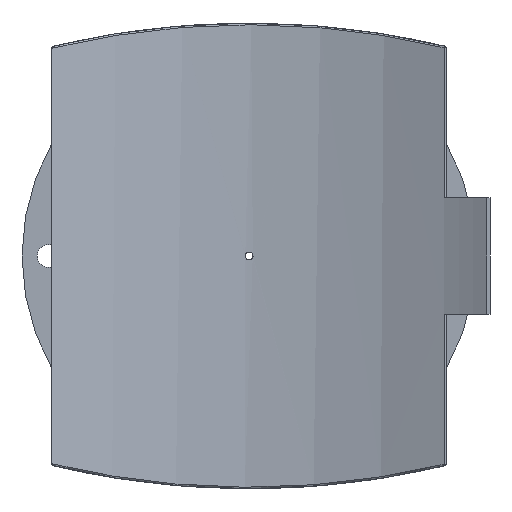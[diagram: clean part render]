
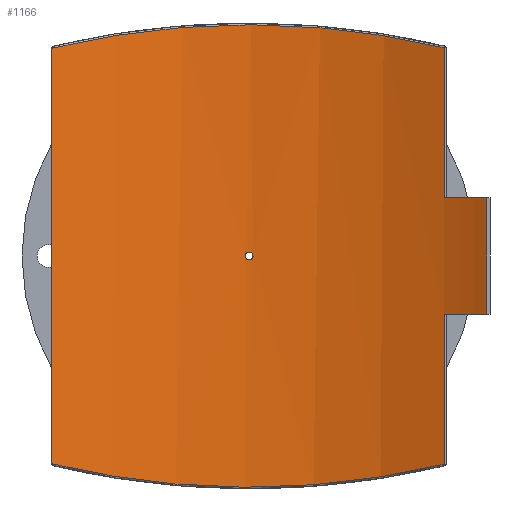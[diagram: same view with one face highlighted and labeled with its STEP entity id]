
A CAD part, front view. The second image highlights one B-rep face of the part: STEP entity #1166.
In plain terms, the highlighted cylindrical face has radius 600 mm (diameter 1200 mm), a partial arc.
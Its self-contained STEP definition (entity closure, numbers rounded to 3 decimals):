
#55=FACE_BOUND('',#379,.T.);
#117=B_SPLINE_CURVE_WITH_KNOTS('',3,(#2361,#2362,#2363,#2364,#2365,#2366,
#2367,#2368,#2369,#2370),.UNSPECIFIED.,.F.,.F.,(4,1,1,1,1,1,1,4),(-60.562,
-52.889,-45.215,-37.542,-29.868,
-22.195,-14.521,-6.848),.UNSPECIFIED.);
#118=B_SPLINE_CURVE_WITH_KNOTS('',3,(#2379,#2380,#2381,#2382,#2383,#2384,
#2385,#2386,#2387,#2388),.UNSPECIFIED.,.F.,.F.,(4,1,1,1,1,1,1,4),(-55.334,
-47.66,-39.987,-32.313,-24.64,
-16.966,-9.293,-1.619),.UNSPECIFIED.);
#119=B_SPLINE_CURVE_WITH_KNOTS('',3,(#2391,#2392,#2393,#2394,#2395,#2396,
#2397,#2398,#2399,#2400),.UNSPECIFIED.,.F.,.F.,(4,2,2,2,4),(0.,0.196,
0.392,0.588,0.784),.UNSPECIFIED.);
#120=B_SPLINE_CURVE_WITH_KNOTS('',3,(#2401,#2402,#2403,#2404,#2405,#2406,
#2407,#2408,#2409,#2410,#2411,#2412,#2413,#2414,#2415,#2416,#2417,#2418,
#2419,#2420,#2421,#2422,#2423,#2424,#2425,#2426),.UNSPECIFIED.,.F.,.F.,
(4,2,2,2,2,2,2,2,2,2,2,2,4),(0.784,0.979,1.175,
1.371,1.567,1.763,1.959,2.155,
2.351,2.546,2.742,2.938,3.134),
 .UNSPECIFIED.);
#141=LINE('',#1747,#196);
#152=LINE('',#2050,#207);
#159=LINE('',#2375,#214);
#160=LINE('',#2378,#215);
#196=VECTOR('',#1396,10.);
#207=VECTOR('',#1435,10.);
#214=VECTOR('',#1472,10.);
#215=VECTOR('',#1475,10.);
#260=CYLINDRICAL_SURFACE('',#1267,600.);
#308=FACE_OUTER_BOUND('',#378,.T.);
#378=EDGE_LOOP('',(#903,#904,#905,#906,#907,#908,#909,#910));
#379=EDGE_LOOP('',(#911,#912));
#485=CIRCLE('',#1268,600.);
#486=CIRCLE('',#1269,600.);
#554=VERTEX_POINT('',#1738);
#557=VERTEX_POINT('',#1745);
#577=VERTEX_POINT('',#2043);
#580=VERTEX_POINT('',#2048);
#593=VERTEX_POINT('',#2347);
#594=VERTEX_POINT('',#2372);
#595=VERTEX_POINT('',#2374);
#596=VERTEX_POINT('',#2377);
#597=VERTEX_POINT('',#2389);
#598=VERTEX_POINT('',#2390);
#665=EDGE_CURVE('',#557,#554,#141,.T.);
#695=EDGE_CURVE('',#580,#577,#152,.T.);
#718=EDGE_CURVE('',#593,#580,#117,.T.);
#719=EDGE_CURVE('',#594,#557,#485,.T.);
#720=EDGE_CURVE('',#594,#595,#159,.T.);
#721=EDGE_CURVE('',#577,#595,#486,.T.);
#722=EDGE_CURVE('',#596,#593,#160,.T.);
#723=EDGE_CURVE('',#554,#596,#118,.T.);
#724=EDGE_CURVE('',#597,#598,#119,.T.);
#725=EDGE_CURVE('',#598,#597,#120,.T.);
#903=ORIENTED_EDGE('',*,*,#719,.F.);
#904=ORIENTED_EDGE('',*,*,#720,.T.);
#905=ORIENTED_EDGE('',*,*,#721,.F.);
#906=ORIENTED_EDGE('',*,*,#695,.F.);
#907=ORIENTED_EDGE('',*,*,#718,.F.);
#908=ORIENTED_EDGE('',*,*,#722,.F.);
#909=ORIENTED_EDGE('',*,*,#723,.F.);
#910=ORIENTED_EDGE('',*,*,#665,.F.);
#911=ORIENTED_EDGE('',*,*,#724,.T.);
#912=ORIENTED_EDGE('',*,*,#725,.T.);
#1166=ADVANCED_FACE('',(#308,#55),#260,.F.);
#1267=AXIS2_PLACEMENT_3D('',#2371,#1468,#1469);
#1268=AXIS2_PLACEMENT_3D('',#2373,#1470,#1471);
#1269=AXIS2_PLACEMENT_3D('',#2376,#1473,#1474);
#1396=DIRECTION('',(0.,0.,-1.));
#1435=DIRECTION('',(0.,0.,-1.));
#1468=DIRECTION('center_axis',(0.,0.,1.));
#1469=DIRECTION('ref_axis',(-1.,0.,0.));
#1470=DIRECTION('center_axis',(0.,0.,1.));
#1471=DIRECTION('ref_axis',(-0.519,-0.855,0.));
#1472=DIRECTION('',(0.,0.,1.));
#1473=DIRECTION('center_axis',(0.,0.,-1.));
#1474=DIRECTION('ref_axis',(-0.519,-0.855,0.));
#1475=DIRECTION('',(0.,0.,1.));
#1738=CARTESIAN_POINT('',(255.449,542.905,-272.921));
#1745=CARTESIAN_POINT('',(255.449,542.905,-76.25));
#1747=CARTESIAN_POINT('',(255.449,542.905,0.));
#2043=CARTESIAN_POINT('',(255.449,542.905,76.25));
#2048=CARTESIAN_POINT('',(255.449,542.905,272.921));
#2050=CARTESIAN_POINT('',(255.449,542.905,0.));
#2347=CARTESIAN_POINT('',(-258.3,541.554,272.236));
#2361=CARTESIAN_POINT('Ctrl Pts',(-258.3,541.554,272.236));
#2362=CARTESIAN_POINT('Ctrl Pts',(-235.817,552.278,277.668));
#2363=CARTESIAN_POINT('Ctrl Pts',(-189.28,571.032,287.406));
#2364=CARTESIAN_POINT('Ctrl Pts',(-115.814,590.36,297.748));
#2365=CARTESIAN_POINT('Ctrl Pts',(-39.954,600.3,303.163));
#2366=CARTESIAN_POINT('Ctrl Pts',(36.721,600.506,303.276));
#2367=CARTESIAN_POINT('Ctrl Pts',(112.643,590.975,298.082));
#2368=CARTESIAN_POINT('Ctrl Pts',(186.244,572.03,287.934));
#2369=CARTESIAN_POINT('Ctrl Pts',(232.897,553.516,278.306));
#2370=CARTESIAN_POINT('Ctrl Pts',(255.449,542.905,272.921));
#2371=CARTESIAN_POINT('Origin',(0.,0.,0.));
#2372=CARTESIAN_POINT('',(311.529,512.786,-76.25));
#2373=CARTESIAN_POINT('Origin',(0.,0.,
-76.25));
#2374=CARTESIAN_POINT('',(311.529,512.786,76.25));
#2375=CARTESIAN_POINT('',(311.529,512.786,0.));
#2376=CARTESIAN_POINT('Origin',(0.,0.,
76.25));
#2377=CARTESIAN_POINT('',(-258.3,541.554,-272.236));
#2378=CARTESIAN_POINT('',(-258.3,541.554,0.));
#2379=CARTESIAN_POINT('Ctrl Pts',(255.449,542.905,-272.921));
#2380=CARTESIAN_POINT('Ctrl Pts',(232.897,553.516,-278.306));
#2381=CARTESIAN_POINT('Ctrl Pts',(186.244,572.031,-287.934));
#2382=CARTESIAN_POINT('Ctrl Pts',(112.643,590.974,-298.081));
#2383=CARTESIAN_POINT('Ctrl Pts',(36.721,600.507,-303.276));
#2384=CARTESIAN_POINT('Ctrl Pts',(-39.954,600.3,-303.163));
#2385=CARTESIAN_POINT('Ctrl Pts',(-115.814,590.36,-297.749));
#2386=CARTESIAN_POINT('Ctrl Pts',(-189.279,571.032,-287.405));
#2387=CARTESIAN_POINT('Ctrl Pts',(-235.817,552.278,-277.668));
#2388=CARTESIAN_POINT('Ctrl Pts',(-258.3,541.554,-272.236));
#2389=CARTESIAN_POINT('',(5.2,599.977,0.));
#2390=CARTESIAN_POINT('',(0.,600.,-5.2));
#2391=CARTESIAN_POINT('Ctrl Pts',(5.2,599.977,0.));
#2392=CARTESIAN_POINT('Ctrl Pts',(5.2,599.977,-0.653));
#2393=CARTESIAN_POINT('Ctrl Pts',(5.07,599.979,-1.349));
#2394=CARTESIAN_POINT('Ctrl Pts',(4.539,599.983,-2.631));
#2395=CARTESIAN_POINT('Ctrl Pts',(4.139,599.986,-3.215));
#2396=CARTESIAN_POINT('Ctrl Pts',(3.215,599.992,-4.139));
#2397=CARTESIAN_POINT('Ctrl Pts',(2.631,599.995,-4.539));
#2398=CARTESIAN_POINT('Ctrl Pts',(1.349,599.999,-5.07));
#2399=CARTESIAN_POINT('Ctrl Pts',(0.653,600.,-5.2));
#2400=CARTESIAN_POINT('Ctrl Pts',(0.,600.,-5.2));
#2401=CARTESIAN_POINT('Ctrl Pts',(0.,600.,-5.2));
#2402=CARTESIAN_POINT('Ctrl Pts',(-0.653,600.,-5.2));
#2403=CARTESIAN_POINT('Ctrl Pts',(-1.349,599.999,-5.07));
#2404=CARTESIAN_POINT('Ctrl Pts',(-2.631,599.995,-4.539));
#2405=CARTESIAN_POINT('Ctrl Pts',(-3.215,599.992,-4.139));
#2406=CARTESIAN_POINT('Ctrl Pts',(-4.139,599.986,-3.215));
#2407=CARTESIAN_POINT('Ctrl Pts',(-4.539,599.983,-2.631));
#2408=CARTESIAN_POINT('Ctrl Pts',(-5.07,599.979,-1.349));
#2409=CARTESIAN_POINT('Ctrl Pts',(-5.2,599.977,-0.653));
#2410=CARTESIAN_POINT('Ctrl Pts',(-5.2,599.977,0.653));
#2411=CARTESIAN_POINT('Ctrl Pts',(-5.07,599.979,1.349));
#2412=CARTESIAN_POINT('Ctrl Pts',(-4.539,599.983,2.631));
#2413=CARTESIAN_POINT('Ctrl Pts',(-4.139,599.986,3.215));
#2414=CARTESIAN_POINT('Ctrl Pts',(-3.215,599.992,4.139));
#2415=CARTESIAN_POINT('Ctrl Pts',(-2.631,599.995,4.539));
#2416=CARTESIAN_POINT('Ctrl Pts',(-1.349,599.999,5.07));
#2417=CARTESIAN_POINT('Ctrl Pts',(-0.653,600.,5.2));
#2418=CARTESIAN_POINT('Ctrl Pts',(0.653,600.,5.2));
#2419=CARTESIAN_POINT('Ctrl Pts',(1.349,599.999,5.07));
#2420=CARTESIAN_POINT('Ctrl Pts',(2.631,599.995,4.539));
#2421=CARTESIAN_POINT('Ctrl Pts',(3.215,599.992,4.139));
#2422=CARTESIAN_POINT('Ctrl Pts',(4.139,599.986,3.215));
#2423=CARTESIAN_POINT('Ctrl Pts',(4.539,599.983,2.631));
#2424=CARTESIAN_POINT('Ctrl Pts',(5.07,599.979,1.349));
#2425=CARTESIAN_POINT('Ctrl Pts',(5.2,599.977,0.653));
#2426=CARTESIAN_POINT('Ctrl Pts',(5.2,599.977,0.));
